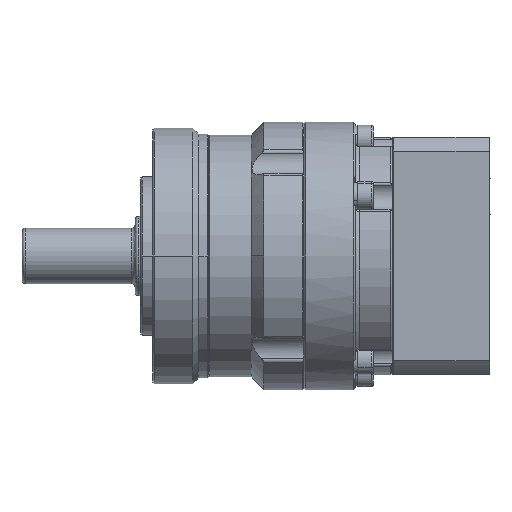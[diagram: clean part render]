
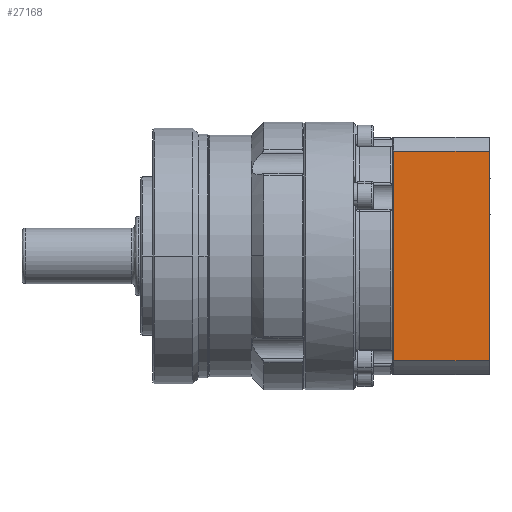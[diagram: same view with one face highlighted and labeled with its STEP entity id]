
A CAD part, front view. The second image highlights one B-rep face of the part: STEP entity #27168.
In plain terms, the highlighted planar face has unit normal (0, -1, 0).
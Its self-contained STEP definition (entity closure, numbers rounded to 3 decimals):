
#593 = VERTEX_POINT ( 'NONE', #24387 ) ;
#931 = LINE ( 'NONE', #20857, #15770 ) ;
#3260 = CARTESIAN_POINT ( 'NONE',  ( 0., -30., -26.458 ) ) ;
#3293 = EDGE_LOOP ( 'NONE', ( #24321, #5733, #27157, #37105 ) ) ;
#3695 = LINE ( 'NONE', #29596, #33325 ) ;
#4669 = CARTESIAN_POINT ( 'NONE',  ( 0.2, -30., 26.458 ) ) ;
#5733 = ORIENTED_EDGE ( 'NONE', *, *, #19785, .F. ) ;
#8811 = CARTESIAN_POINT ( 'NONE',  ( -15.904, -30., -26.458 ) ) ;
#10306 = AXIS2_PLACEMENT_3D ( 'NONE', #3260, #15558, #27820 ) ;
#11164 = DIRECTION ( 'NONE',  ( 0., 0., -1. ) ) ;
#12118 = EDGE_CURVE ( 'NONE', #593, #16895, #27038, .T. ) ;
#12690 = VERTEX_POINT ( 'NONE', #23347 ) ;
#14900 = PLANE ( 'NONE',  #10306 ) ;
#15558 = DIRECTION ( 'NONE',  ( 0., 1., 0. ) ) ;
#15770 = VECTOR ( 'NONE', #30035, 1000. ) ;
#16895 = VERTEX_POINT ( 'NONE', #18552 ) ;
#17991 = VECTOR ( 'NONE', #32983, 1000. ) ;
#18552 = CARTESIAN_POINT ( 'NONE',  ( 24.3, -30., -26.458 ) ) ;
#18559 = VECTOR ( 'NONE', #27103, 1000. ) ;
#19785 = EDGE_CURVE ( 'NONE', #22604, #593, #931, .T. ) ;
#20857 = CARTESIAN_POINT ( 'NONE',  ( 0., -30., 26.458 ) ) ;
#22361 = LINE ( 'NONE', #8811, #18559 ) ;
#22604 = VERTEX_POINT ( 'NONE', #4669 ) ;
#23347 = CARTESIAN_POINT ( 'NONE',  ( 0.2, -30., -26.458 ) ) ;
#23642 = CARTESIAN_POINT ( 'NONE',  ( 24.3, -30., -26.458 ) ) ;
#24321 = ORIENTED_EDGE ( 'NONE', *, *, #12118, .F. ) ;
#24387 = CARTESIAN_POINT ( 'NONE',  ( 24.3, -30., 26.458 ) ) ;
#25430 = EDGE_CURVE ( 'NONE', #22604, #12690, #3695, .T. ) ;
#27038 = LINE ( 'NONE', #23642, #17991 ) ;
#27103 = DIRECTION ( 'NONE',  ( -1., 0., 0. ) ) ;
#27157 = ORIENTED_EDGE ( 'NONE', *, *, #25430, .T. ) ;
#27168 = ADVANCED_FACE ( 'NONE', ( #29409 ), #14900, .F. ) ;
#27820 = DIRECTION ( 'NONE',  ( 0., 0., 1. ) ) ;
#29409 = FACE_OUTER_BOUND ( 'NONE', #3293, .T. ) ;
#29596 = CARTESIAN_POINT ( 'NONE',  ( 0.2, -30., 0. ) ) ;
#30035 = DIRECTION ( 'NONE',  ( 1., 0., 0. ) ) ;
#30484 = EDGE_CURVE ( 'NONE', #16895, #12690, #22361, .T. ) ;
#32983 = DIRECTION ( 'NONE',  ( 0., 0., -1. ) ) ;
#33325 = VECTOR ( 'NONE', #11164, 1000. ) ;
#37105 = ORIENTED_EDGE ( 'NONE', *, *, #30484, .F. ) ;
